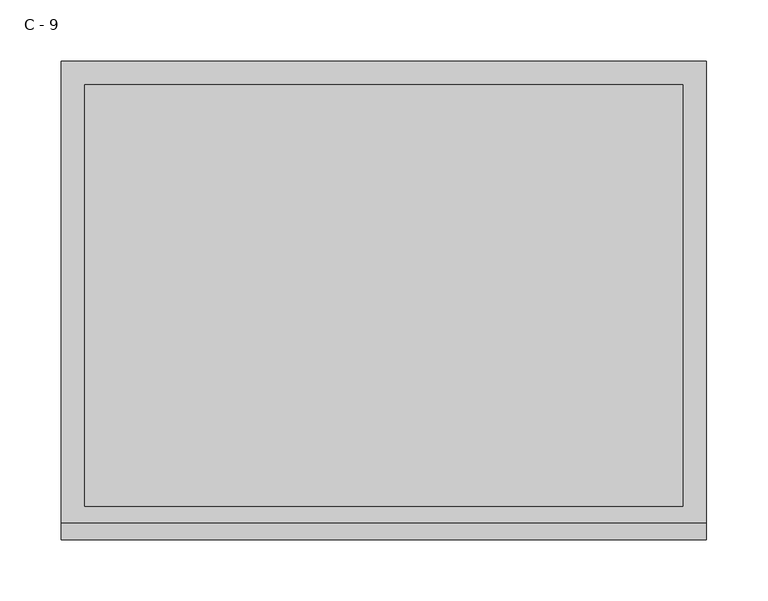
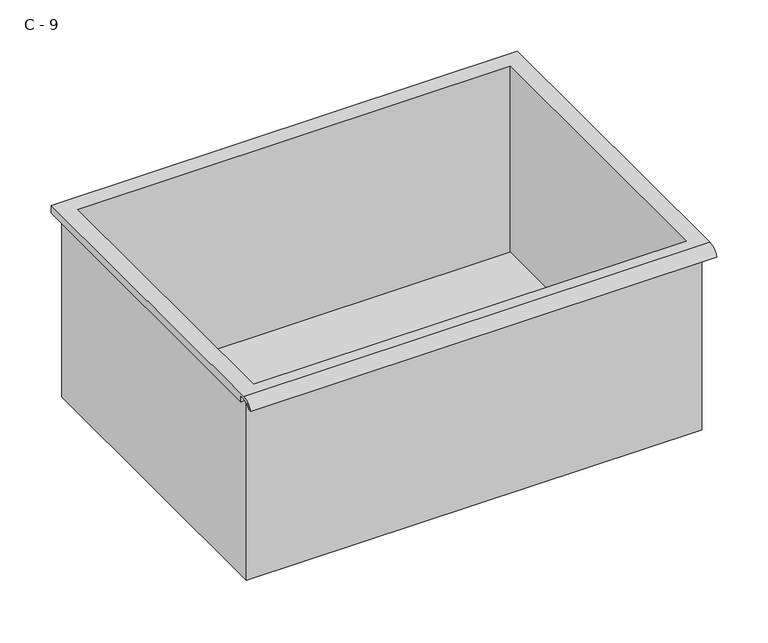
"""IFC4 building model written with IfcOpenShell, lengths in millimetres: furniture geometry, HermanMiller_CoStruc_CO207_Drawer : C - 9."""

from ifc_helpers import new_model, si_unit, frame, origin, place, context, project, spatial, polyline, circle_curve, source, transform, mapped, element, save
from ifc_brep_helpers import plane_surface, cylinder_surface, revolved_surface, advanced_brep


def c_9_bea1e051(model_context):
    return source(origin(), model_context, "Body", "AdvancedBrep", [
        advanced_brep(
        [(-257.1076517, -176.2125, 113.50752), (257.2423483, -176.2125, 113.50752), (257.2423483, -176.2125, 329.40752), (263.5923483, -176.2125, 329.40752), (263.5923483, -176.2125, 335.7146541), (-263.4576517, -176.2125, 335.7146541), (-263.4576517, -176.2125, 329.40752), (-257.1076517, -176.2125, 329.40752), (257.2423483, 185.7375, 113.50752), (-257.1076517, 185.7375, 113.50752), (-257.1076517, 185.7375, 329.40752), (257.2423483, 185.7375, 329.40752), (263.5923483, -181.6070544, 338.93252), (263.5923483, 195.2625, 338.93252), (-263.4576517, 195.2625, 338.93252), (-263.4576517, -181.6070544, 338.93252), (244.5423483, -168.275, 338.93252), (-244.4076517, -168.275, 338.93252), (-244.4076517, 176.2125, 338.93252), (244.5423483, 176.2125, 338.93252), (263.5923483, -195.2625, 329.40752), (263.5923483, -191.8280601, 329.40752), (263.5923483, -180.4714815, 335.7146541), (263.5923483, 195.2625, 329.40752), (-263.4576517, 195.2625, 329.40752), (-263.4576517, -180.4714815, 335.7146541), (-263.4576517, -191.8280601, 329.40752), (-263.4576517, -195.2625, 329.40752), (-244.4076517, -168.275, 116.5336919), (244.5423483, -168.275, 116.5336919), (244.5423483, 176.2125, 116.5336919), (-244.4076517, 176.2125, 116.5336919)],
        [
            (0, 1),
            (1, 2),
            (2, 3),
            (3, 4),
            (4, 5),
            (5, 6),
            (6, 7),
            (7, 0),
            (8, 9),
            (9, 10),
            (10, 11),
            (11, 8),
            (0, 9),
            (8, 1),
            (11, 2),
            (12, 13),
            (13, 14),
            (14, 15),
            (15, 12),
            (16, 17),
            (17, 18),
            (18, 19),
            (19, 16),
            (7, 10),
            (12, 20, circle_curve(frame((263.5923483, -181.6070544, 324.3815059), z_axis=(1.0, 0.0, 0.0), x_axis=(0.0, 1.0, 0.0)), 14.5510141)),
            (20, 21),
            (21, 22, circle_curve(frame((263.5923483, -181.6070544, 324.3815059), z_axis=(-1.0, 0.0, 0.0), x_axis=(0.0, 1.0, 0.0)), 11.3898979)),
            (22, 4),
            (3, 23),
            (23, 13),
            (14, 24),
            (24, 6),
            (5, 25),
            (25, 26, circle_curve(frame((-263.4576517, -181.6070544, 324.3815059), z_axis=(1.0, 0.0, 0.0), x_axis=(0.0, 1.0, 0.0)), 11.3898979)),
            (26, 27),
            (27, 15, circle_curve(frame((-263.4576517, -181.6070544, 324.3815059), z_axis=(-1.0, 0.0, 0.0), x_axis=(0.0, 1.0, 0.0)), 14.5510141)),
            (27, 20),
            (26, 21),
            (25, 22),
            (24, 23),
            (28, 29),
            (29, 30),
            (30, 31),
            (31, 28),
            (28, 17),
            (16, 29),
            (19, 30),
            (18, 31),
        ],
        [
            plane_surface(frame((257.2423483, -176.2125, 113.50752), z_axis=(0.0, -1.0, 0.0), x_axis=(1.0, 0.0, 0.0))),
            plane_surface(frame((257.2423483, 185.7375, 113.50752), z_axis=(0.0, 1.0, 0.0), x_axis=(-1.0, 0.0, 0.0))),
            plane_surface(frame((-257.1076517, -176.2125, 113.50752), z_axis=(0.0, 0.0, -1.0), x_axis=(0.0, 1.0, 0.0))),
            plane_surface(frame((257.2423483, -176.2125, 113.50752), z_axis=(1.0, 0.0, 0.0), x_axis=(0.0, 1.0, 0.0))),
            plane_surface(frame((257.2423483, -176.2125, 338.93252), z_axis=(0.0, 0.0, 1.0), x_axis=(0.0, 1.0, 0.0))),
            plane_surface(frame((-257.1076517, -176.2125, 338.93252), z_axis=(-1.0, 0.0, 0.0), x_axis=(0.0, 1.0, 0.0))),
            plane_surface(frame((263.5923483, 195.2625, 338.93252), z_axis=(1.0, 0.0, 0.0), x_axis=(0.0, -1.0, 0.0))),
            plane_surface(frame((-263.4576517, 195.2625, 338.93252), z_axis=(-1.0, 0.0, 0.0), x_axis=(0.0, 1.0, 0.0))),
            cylinder_surface(frame((-263.4576517, -181.6070544, 324.3815059), z_axis=(1.0, 0.0, 0.0), x_axis=(0.0, 1.0, 0.0)), 14.5510141),
            plane_surface(frame((263.5923483, -195.2625, 329.40752), z_axis=(0.0, -7.212409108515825e-12, -1.0), x_axis=(-1.0, 0.0, 0.0))),
            revolved_surface(polyline([(-263.4576517, -170.21715650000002, 324.3815059), (263.59234829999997, -170.21715650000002, 324.3815059)]), (-263.4576517, -181.6070544, 324.3815059), (-1.0, 0.0, 0.0)),
            plane_surface(frame((263.5923483, -180.4714815, 335.7146541), z_axis=(0.0, -1.7845519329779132e-11, -1.0), x_axis=(-1.0, 0.0, 0.0))),
            plane_surface(frame((263.5923483, -176.2125, 329.40752), z_axis=(0.0, 0.0, -1.0), x_axis=(-1.0, 0.0, 0.0))),
            plane_surface(frame((263.5923483, 195.2625, 329.40752), z_axis=(0.0, 1.0, 0.0), x_axis=(-1.0, 0.0, 0.0))),
            plane_surface(frame((244.5423483, -168.275, 116.5336919), z_axis=(0.0, 0.0, 1.0), x_axis=(-1.0, 0.0, 0.0))),
            plane_surface(frame((-244.4076517, -168.275, 338.93252), z_axis=(0.0, 1.0, 0.0), x_axis=(0.0, 0.0, -1.0))),
            plane_surface(frame((244.5423483, -168.275, 338.93252), z_axis=(-1.0, 0.0, 0.0), x_axis=(0.0, 0.0, -1.0))),
            plane_surface(frame((244.5423483, 176.2125, 338.93252), z_axis=(0.0, -1.0, 0.0), x_axis=(0.0, 0.0, -1.0))),
            plane_surface(frame((-244.4076517, 176.2125, 338.93252), z_axis=(1.0, 0.0, 0.0), x_axis=(0.0, 0.0, -1.0))),
        ],
        [
            (0, [[1, 2, 3, 4, 5, 6, 7, 8]]),
            (1, [[9, 10, 11, 12]]),
            (2, [[-1, 13, -9, 14]]),
            (3, [[-14, -12, 15, -2]]),
            (4, [[16, 17, 18, 19], [20, 21, 22, 23]]),
            (5, [[-13, -8, 24, -10]]),
            (6, [[-16, 25, 26, 27, 28, -4, 29, 30]]),
            (7, [[31, 32, -6, 33, 34, 35, 36, -18]]),
            (8, [[-25, -19, -36, 37]]),
            (9, [[-26, -37, -35, 38]]),
            (10, [[-27, -38, -34, 39]]),
            (11, [[-28, -39, -33, -5]]),
            (12, [[-29, -3, -15, -11, -24, -7, -32, 40]]),
            (13, [[-30, -40, -31, -17]]),
            (14, [[41, 42, 43, 44]]),
            (15, [[-41, 45, -20, 46]]),
            (16, [[-42, -46, -23, 47]]),
            (17, [[-43, -47, -22, 48]]),
            (18, [[-44, -48, -21, -45]]),
        ],
    ),
    ])


if __name__ == "__main__":
    model = new_model("IFC4")
    model_context = context("Model", 3, world=origin())
    ifc_project = project(units=[si_unit("LENGTHUNIT", "METRE", prefix="MILLI")], contexts=[model_context])
    site = spatial("IfcSite", under=ifc_project)
    building = spatial("IfcBuilding", under=site)
    placement = place(None, origin())
    c_9_shape = c_9_bea1e051(model_context)
    element("IfcFurniture", 1, ObjectType="HermanMiller_CoStruc_CO207_Drawer : C - 9", at=placement, inside=building, context=model_context, shape_type="MappedRepresentation", body=[
        mapped(c_9_shape, transform((0.0, 0.0, 0.0), x_axis=(1.0, 0.0, 0.0), y_axis=(0.0, 1.0, 0.0), z_axis=(0.0, 0.0, 1.0))),
    ])
    save(model, "model.ifc")
